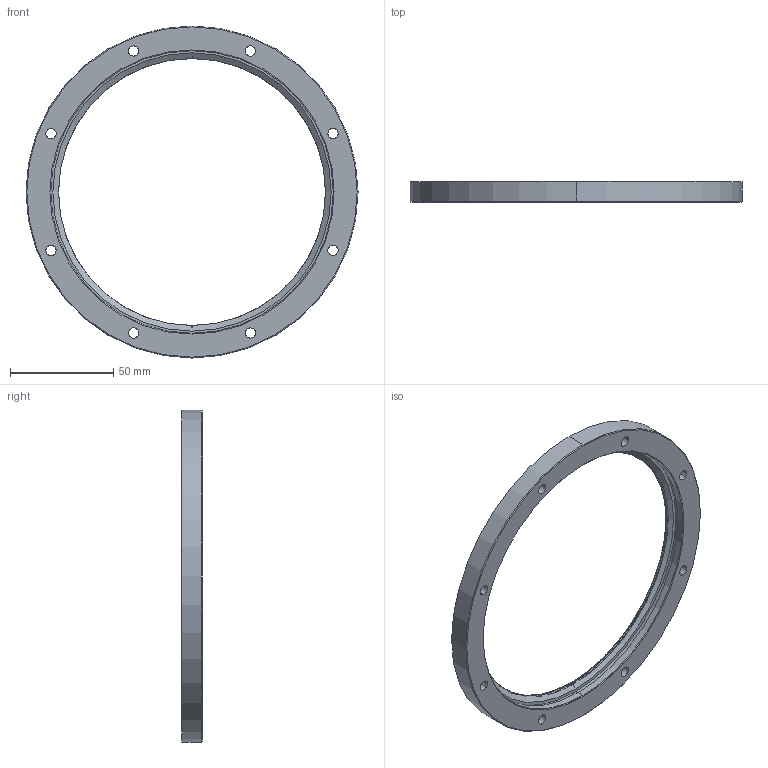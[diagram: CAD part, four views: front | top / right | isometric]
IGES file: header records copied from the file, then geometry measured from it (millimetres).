
Start section: 3D InterOp IGES (v. 2019 1.0.2), Spatial Corp. Copyright (c) 1999-2017.
Global section: file name: RIV 161 R360.igs; native system: Spatial Corp.; preprocessor: 3D InterOp GENERIC/IGES 3.0; author: Noname; organization: Noname; date: 20220719.140139; units: millimetre
Bounding box: 161 x 10 x 161 mm (x, y, z)
Surface area: 28721.4 mm2 (no closed solid volume)
Topology: 0 solids, 0 shells, 62 faces, 288 edges, 284 vertices
Faces by surface type: revolution 50, extrusion 12
